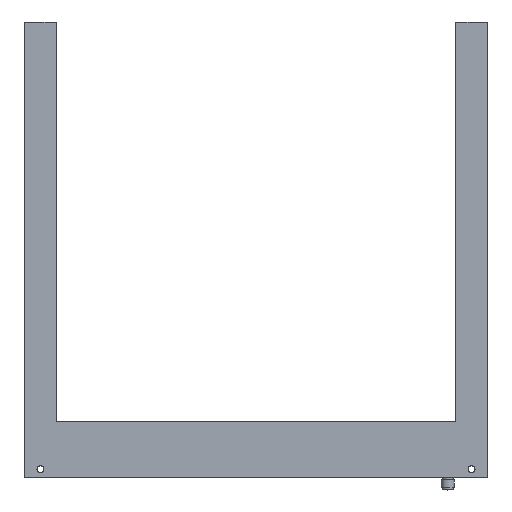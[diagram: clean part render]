
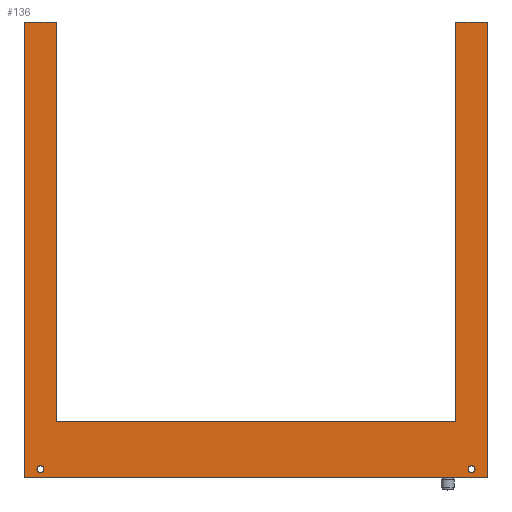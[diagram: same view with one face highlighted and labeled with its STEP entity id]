
A CAD part, top view. The second image highlights one B-rep face of the part: STEP entity #136.
In plain terms, the highlighted planar face has unit normal (0, 0, 1).
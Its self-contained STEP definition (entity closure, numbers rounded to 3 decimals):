
#136=ADVANCED_FACE('',(#300,#301,#302),#303,.T.);
#300=FACE_OUTER_BOUND('',#493,.T.);
#301=FACE_BOUND('',#494,.T.);
#302=FACE_BOUND('',#495,.T.);
#303=PLANE('',#496);
#493=EDGE_LOOP('',(#813,#814,#815,#816,#817,#818,#819,#820));
#494=EDGE_LOOP('',(#821,#822));
#495=EDGE_LOOP('',(#823,#824));
#496=AXIS2_PLACEMENT_3D('',#825,#826,#827);
#813=ORIENTED_EDGE('',*,*,#1232,.F.);
#814=ORIENTED_EDGE('',*,*,#1242,.F.);
#815=ORIENTED_EDGE('',*,*,#1243,.F.);
#816=ORIENTED_EDGE('',*,*,#1135,.F.);
#817=ORIENTED_EDGE('',*,*,#1244,.F.);
#818=ORIENTED_EDGE('',*,*,#1245,.F.);
#819=ORIENTED_EDGE('',*,*,#1167,.F.);
#820=ORIENTED_EDGE('',*,*,#1246,.F.);
#821=ORIENTED_EDGE('',*,*,#1238,.T.);
#822=ORIENTED_EDGE('',*,*,#1247,.T.);
#823=ORIENTED_EDGE('',*,*,#1212,.T.);
#824=ORIENTED_EDGE('',*,*,#1165,.T.);
#825=CARTESIAN_POINT('',(0.,-32.576,10.0));
#826=DIRECTION('',(0.0,0.0,1.0));
#827=DIRECTION('',(1.0,0.0,0.0));
#1135=EDGE_CURVE('',#1346,#1348,#1349,.T.);
#1165=EDGE_CURVE('',#1395,#1399,#1401,.T.);
#1167=EDGE_CURVE('',#1403,#1404,#1405,.T.);
#1212=EDGE_CURVE('',#1399,#1395,#1472,.T.);
#1232=EDGE_CURVE('',#1499,#1500,#1501,.T.);
#1238=EDGE_CURVE('',#1511,#1509,#1512,.T.);
#1242=EDGE_CURVE('',#1517,#1499,#1518,.T.);
#1243=EDGE_CURVE('',#1348,#1517,#1519,.T.);
#1244=EDGE_CURVE('',#1520,#1346,#1521,.T.);
#1245=EDGE_CURVE('',#1404,#1520,#1522,.T.);
#1246=EDGE_CURVE('',#1500,#1403,#1523,.T.);
#1247=EDGE_CURVE('',#1509,#1511,#1524,.T.);
#1346=VERTEX_POINT('',#1645);
#1348=VERTEX_POINT('',#1648);
#1349=LINE('',#1649,#1650);
#1395=VERTEX_POINT('',#1707);
#1399=VERTEX_POINT('',#1712);
#1401=CIRCLE('',#1715,2.15);
#1403=VERTEX_POINT('',#1717);
#1404=VERTEX_POINT('',#1718);
#1405=LINE('',#1719,#1720);
#1472=CIRCLE('',#1810,2.15);
#1499=VERTEX_POINT('',#1841);
#1500=VERTEX_POINT('',#1842);
#1501=LINE('',#1843,#1844);
#1509=VERTEX_POINT('',#1855);
#1511=VERTEX_POINT('',#1858);
#1512=CIRCLE('',#1859,2.15);
#1517=VERTEX_POINT('',#1865);
#1518=LINE('',#1866,#1867);
#1519=LINE('',#1868,#1869);
#1520=VERTEX_POINT('',#1870);
#1521=LINE('',#1871,#1872);
#1522=LINE('',#1873,#1874);
#1523=LINE('',#1875,#1876);
#1524=CIRCLE('',#1877,2.15);
#1645=CARTESIAN_POINT('',(125.0,-107.5,10.0));
#1648=CARTESIAN_POINT('',(125.0,142.5,10.0));
#1649=CARTESIAN_POINT('',(125.0,-107.5,10.0));
#1650=VECTOR('',#2030,1.0);
#1707=CARTESIAN_POINT('',(-132.85,-137.5,10.0));
#1712=CARTESIAN_POINT('',(-137.15,-137.5,10.0));
#1715=AXIS2_PLACEMENT_3D('',#2074,#2075,#2076);
#1717=CARTESIAN_POINT('',(-145.0,142.5,10.0));
#1718=CARTESIAN_POINT('',(-125.0,142.5,10.0));
#1719=CARTESIAN_POINT('',(-145.0,142.5,10.0));
#1720=VECTOR('',#2077,1.0);
#1810=AXIS2_PLACEMENT_3D('',#2128,#2129,#2130);
#1841=CARTESIAN_POINT('',(145.0,-142.5,10.0));
#1842=CARTESIAN_POINT('',(-145.0,-142.5,10.0));
#1843=CARTESIAN_POINT('',(145.0,-142.5,10.0));
#1844=VECTOR('',#2165,1.0);
#1855=CARTESIAN_POINT('',(137.15,-137.5,10.0));
#1858=CARTESIAN_POINT('',(132.85,-137.5,10.0));
#1859=AXIS2_PLACEMENT_3D('',#2170,#2171,#2172);
#1865=CARTESIAN_POINT('',(145.0,142.5,10.0));
#1866=CARTESIAN_POINT('',(145.0,142.5,10.0));
#1867=VECTOR('',#2177,1.0);
#1868=CARTESIAN_POINT('',(125.0,142.5,10.0));
#1869=VECTOR('',#2178,1.0);
#1870=CARTESIAN_POINT('',(-125.0,-107.5,10.0));
#1871=CARTESIAN_POINT('',(-125.0,-107.5,10.0));
#1872=VECTOR('',#2179,1.0);
#1873=CARTESIAN_POINT('',(-125.0,142.5,10.0));
#1874=VECTOR('',#2180,1.0);
#1875=CARTESIAN_POINT('',(-145.0,-142.5,10.0));
#1876=VECTOR('',#2181,1.0);
#1877=AXIS2_PLACEMENT_3D('',#2182,#2183,#2184);
#2030=DIRECTION('',(0.,1.0,0.0));
#2074=CARTESIAN_POINT('',(-135.0,-137.5,10.0));
#2075=DIRECTION('',(0.0,0.0,-1.0));
#2076=DIRECTION('',(1.0,0.0,0.0));
#2077=DIRECTION('',(1.0,0.0,0.0));
#2128=CARTESIAN_POINT('',(-135.0,-137.5,10.0));
#2129=DIRECTION('',(0.0,0.0,-1.0));
#2130=DIRECTION('',(1.0,0.0,0.0));
#2165=DIRECTION('',(-1.0,0.0,0.0));
#2170=CARTESIAN_POINT('',(135.0,-137.5,10.0));
#2171=DIRECTION('',(0.0,0.0,-1.0));
#2172=DIRECTION('',(1.0,0.0,0.0));
#2177=DIRECTION('',(0.,-1.0,0.0));
#2178=DIRECTION('',(1.0,0.0,0.0));
#2179=DIRECTION('',(1.0,0.0,0.0));
#2180=DIRECTION('',(0.,-1.0,0.0));
#2181=DIRECTION('',(0.0,1.0,0.0));
#2182=CARTESIAN_POINT('',(135.0,-137.5,10.0));
#2183=DIRECTION('',(0.0,0.0,-1.0));
#2184=DIRECTION('',(1.0,0.0,0.0));
